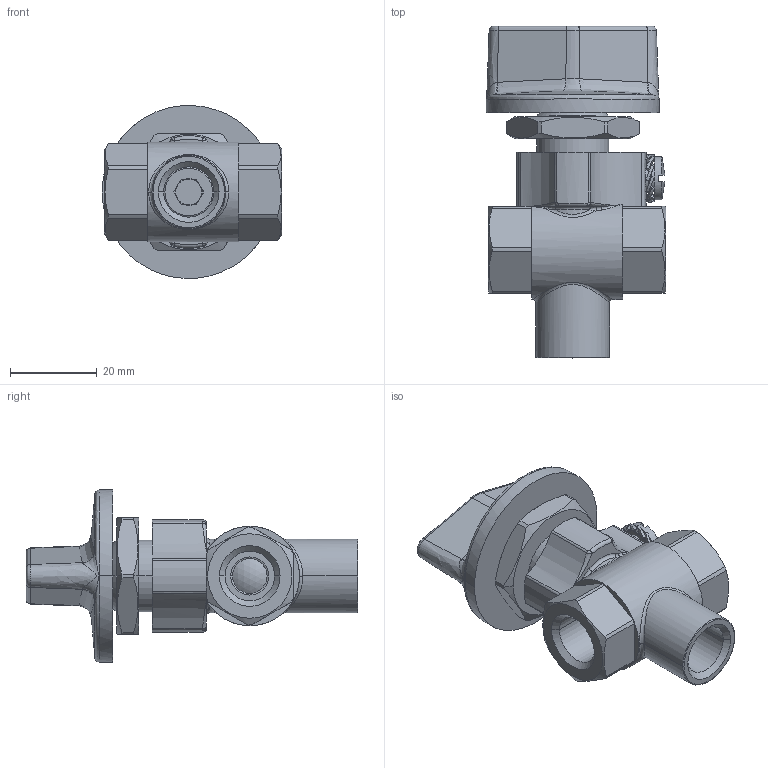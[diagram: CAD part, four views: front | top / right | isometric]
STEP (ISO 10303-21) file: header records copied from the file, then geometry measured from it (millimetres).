
FILE_DESCRIPTION(('Creo Elements/Direct Modeling STEP Export'),'2;1');
FILE_NAME('5710.stp','2020-12-11T 8:11:46',(''),(''),'Creo Elements/Direct Modeling STEP processor for AP214 (Solid Model)','Creo Elements/Direct Modeling 20.1A 29-Sep-2018 (C) Parametric Technology GmbH','');
FILE_SCHEMA(('AUTOMOTIVE_DESIGN { 1 0 10303 214 1 1 1 1 }'));
Products named in the file (1): 5710020000
Bounding box: 41.5 x 76.7 x 39.96 mm (x, y, z)
Volume: 35553.1 mm3; surface area: 13207.1 mm2
Topology: 1 solids, 1 shells, 521 faces, 1422 edges, 867 vertices
Faces by surface type: plane 178, bspline 144, cone 104, cylinder 81, torus 8, sphere 6
Entity records: 48236 total; most frequent: CARTESIAN_POINT 34541, ORIENTED_EDGE 2736, DIRECTION 1530, EDGE_CURVE 1368, VERTEX_POINT 867, B_SPLINE_CURVE_WITH_KNOTS 555, AXIS2_PLACEMENT_3D 549, EDGE_LOOP 545
